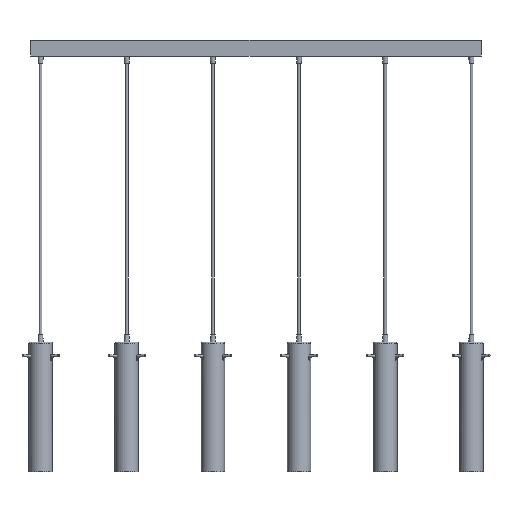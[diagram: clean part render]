
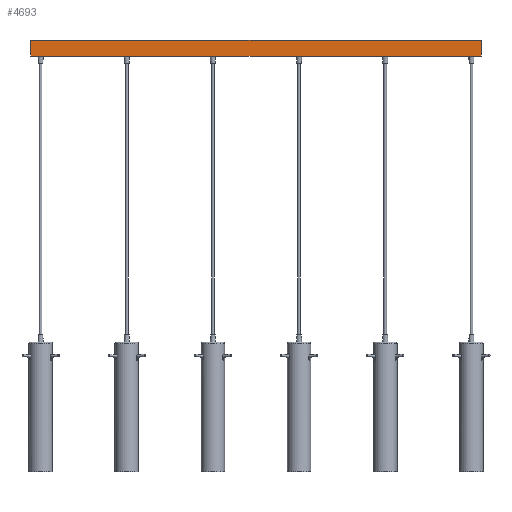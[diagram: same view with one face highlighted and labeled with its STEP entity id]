
A CAD part, top view. The second image highlights one B-rep face of the part: STEP entity #4693.
In plain terms, the highlighted planar face has unit normal (0, 0, 1).
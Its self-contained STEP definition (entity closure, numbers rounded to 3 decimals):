
#826=FACE_OUTER_BOUND('',#1157,.T.);
#1157=EDGE_LOOP('',(#3207,#3208,#3209,#3210));
#1554=LINE('',#7231,#1825);
#1555=LINE('',#7233,#1826);
#1556=LINE('',#7235,#1827);
#1557=LINE('',#7236,#1828);
#1825=VECTOR('',#5724,10.);
#1826=VECTOR('',#5725,10.);
#1827=VECTOR('',#5726,10.);
#1828=VECTOR('',#5727,10.);
#2096=VERTEX_POINT('',#7229);
#2097=VERTEX_POINT('',#7230);
#2098=VERTEX_POINT('',#7232);
#2099=VERTEX_POINT('',#7234);
#2545=EDGE_CURVE('',#2096,#2097,#1554,.T.);
#2546=EDGE_CURVE('',#2097,#2098,#1555,.T.);
#2547=EDGE_CURVE('',#2099,#2098,#1556,.T.);
#2548=EDGE_CURVE('',#2096,#2099,#1557,.T.);
#3207=ORIENTED_EDGE('',*,*,#2545,.T.);
#3208=ORIENTED_EDGE('',*,*,#2546,.T.);
#3209=ORIENTED_EDGE('',*,*,#2547,.F.);
#3210=ORIENTED_EDGE('',*,*,#2548,.F.);
#4531=PLANE('',#5100);
#4693=ADVANCED_FACE('',(#826),#4531,.T.);
#5100=AXIS2_PLACEMENT_3D('',#7228,#5722,#5723);
#5722=DIRECTION('center_axis',(0.,0.,1.));
#5723=DIRECTION('ref_axis',(1.,0.,0.));
#5724=DIRECTION('',(1.,0.,0.));
#5725=DIRECTION('',(0.,1.,0.));
#5726=DIRECTION('',(1.,0.,0.));
#5727=DIRECTION('',(0.,1.,0.));
#7228=CARTESIAN_POINT('Origin',(-575.,0.,15.));
#7229=CARTESIAN_POINT('',(-575.,0.,15.));
#7230=CARTESIAN_POINT('',(575.,0.,15.));
#7231=CARTESIAN_POINT('',(-575.,0.,15.));
#7232=CARTESIAN_POINT('',(575.,40.,15.));
#7233=CARTESIAN_POINT('',(575.,0.,15.));
#7234=CARTESIAN_POINT('',(-575.,40.,15.));
#7235=CARTESIAN_POINT('',(-575.,40.,15.));
#7236=CARTESIAN_POINT('',(-575.,0.,15.));
